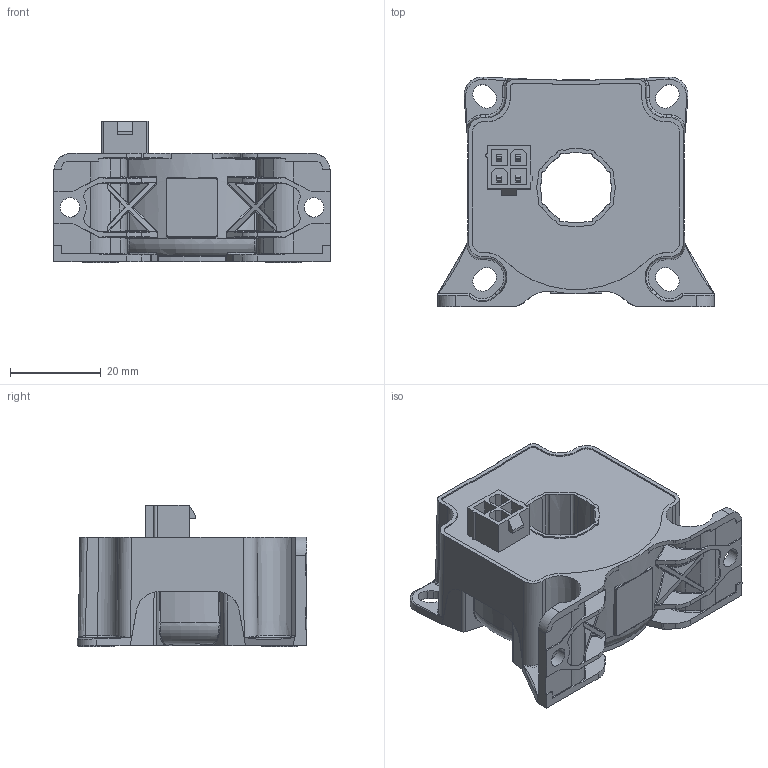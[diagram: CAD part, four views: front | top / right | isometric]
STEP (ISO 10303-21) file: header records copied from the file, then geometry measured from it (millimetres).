
FILE_DESCRIPTION(('Creo Elements/Direct Modeling STEP Export'),'2;1');
FILE_NAME('LF210_S-SPA5.stp','2015-11-27T15:51:23',(''),(''),'PTC Creo Elements/Direct Modeling STEP processor for AP214 (Solid Model)','PTC Creo Elements/Direct Modeling 19.0B 21-Mar-2015 (C) Parametric Technology GmbH','');
FILE_SCHEMA(('AUTOMOTIVE_DESIGN { 1 0 10303 214 1 1 1 1 }'));
Products named in the file (2): BBox_outline_B
Assembly tree (1 placements, depth 2):
  BBox_outline_B
    BBox_outline_B
Bounding box: 61 x 50.75 x 31.3 mm (x, y, z)
Volume: 38674.7 mm3; surface area: 15485.5 mm2
Topology: 1 solids, 1 shells, 1337 faces, 3527 edges, 2224 vertices
Faces by surface type: plane 558, bspline 449, cylinder 155, cone 85, extrusion 48, torus 42
Entity records: 108032 total; most frequent: CARTESIAN_POINT 77751, ORIENTED_EDGE 7026, DIRECTION 4087, EDGE_CURVE 3513, VERTEX_POINT 2224, VECTOR 1539, LINE 1489, EDGE_LOOP 1397
